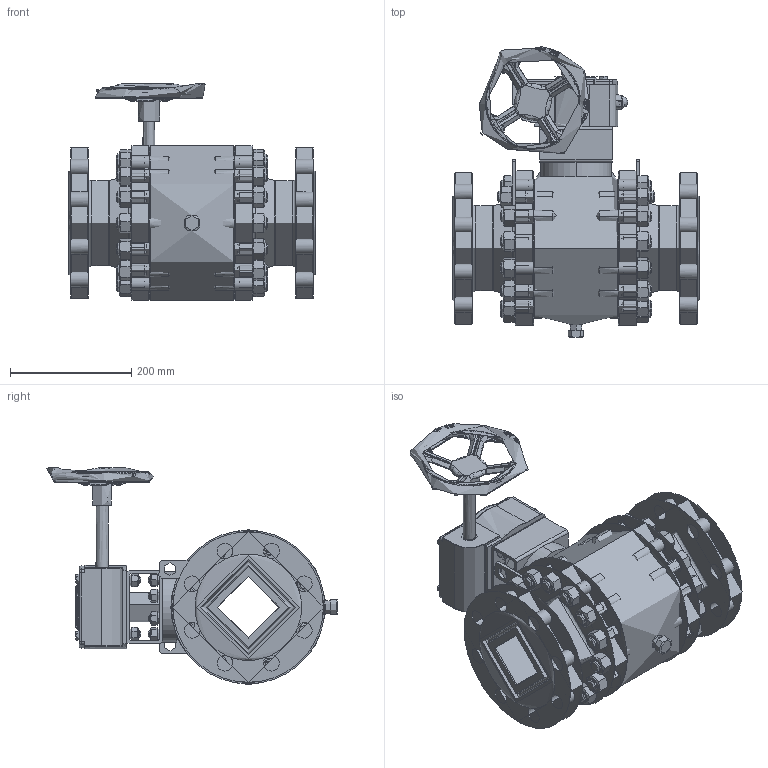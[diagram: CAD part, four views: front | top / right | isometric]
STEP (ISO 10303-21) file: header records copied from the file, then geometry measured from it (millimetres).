
FILE_DESCRIPTION(('STEP AP214'), '1');
FILE_NAME('ÇÀÐÄÏ 100.063.27-Ð ñ ðåä ÀÂ 550', '2015-07-24T08:22:41', (''), (''), 'ASCON STEP Converter 1.3', 'ASCON Math Kernel', '');
FILE_SCHEMA(('AUTOMOTIVE_DESIGN { 1 0 10303 214 3 1 1}'));
Length unit declared in the file: millimetre
Products named in the file (5): 1; 2; 3; 4; 5
Assembly tree (5 placements, depth 2):
  1
    2
    3
    4
    5  x2
Bounding box: 406 x 479.28 x 357.5 mm (x, y, z)
Topology: 70 solids, 71 shells, 3350 faces, 8684 edges, 5459 vertices
Faces by surface type: plane 1117, cone 851, cylinder 813, bspline 304, torus 211, sphere 27, extrusion 27
Full cylindrical faces by diameter (mm): 3.242 x2, 5 x4, 5.6 x3, 6 x1, 6.1 x2, 6.647 x8, 8 x4, 8.376 x4, 9 x4, 10.106 x4, 16 x1, 20 x2, 22 x32, 23.75 x2, 24 x3, 26 x17, 35 x1, 57.1 x2, 59 x2, 60 x3, 64 x1, 68 x1, 73 x1, 100 x2, 121.5 x2, 123.5 x2, 140 x2, 165.5 x2, 175 x4, 176 x1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
Entity records: 211834 total; most frequent: CARTESIAN_POINT 122892, ORIENTED_EDGE 16682, DIRECTION 14121, EDGE_CURVE 8341, AXIS2_PLACEMENT_3D 5718, VERTEX_POINT 5338, EDGE_LOOP 3635, ADVANCED_FACE 3286
